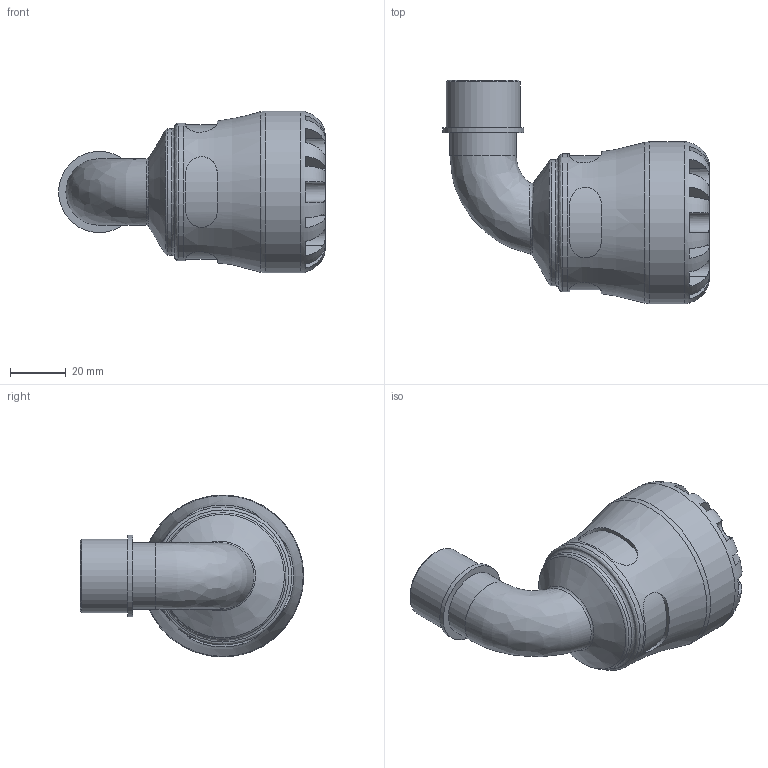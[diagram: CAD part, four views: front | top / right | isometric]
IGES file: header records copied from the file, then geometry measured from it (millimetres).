
Global section: file name: 108500032007_198500032007.ipt; native system: Autodesk Inventor 2015; preprocessor: unknown; author: KIM; date: 20170122.114953; units: millimetre
Bounding box: 95.54 x 80 x 58 mm (x, y, z)
Volume: 96954.7 mm3; surface area: 29001.9 mm2
Topology: 1 solids, 1 shells, 110 faces, 278 edges, 176 vertices
Faces by surface type: plane 61, revolution 26, cylinder 18, bspline 4, cone 1
Full cylindrical faces by diameter (mm): 23.797 x1, 26.441 x1, 29.085 x1, 45.24 x1, 49.3 x1, 58 x1
